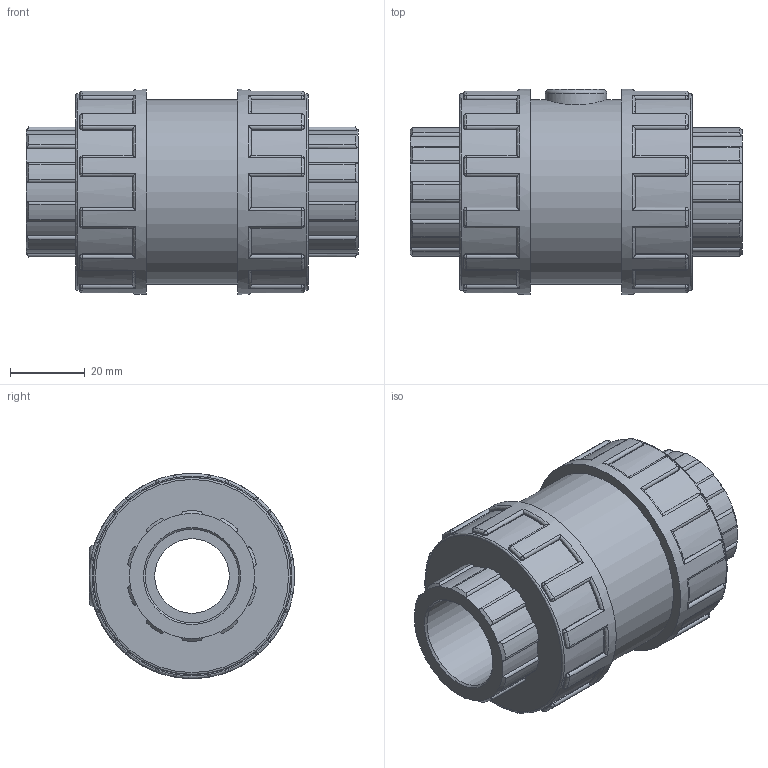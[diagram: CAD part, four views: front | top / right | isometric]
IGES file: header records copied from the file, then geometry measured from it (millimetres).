
Global section: file name: 116400025.ipt; native system: Autodesk Inventor 2015; preprocessor: unknown; author: KIM; date: 20171207.170645; units: millimetre
Bounding box: 89 x 55 x 55 mm (x, y, z)
Volume: 123951.3 mm3; surface area: 24942.9 mm2
Topology: 1 solids, 1 shells, 411 faces, 1033 edges, 630 vertices
Faces by surface type: cylinder 182, plane 105, revolution 56, sphere 48, cone 20
Full cylindrical faces by diameter (mm): 16.5 x1, 49.5 x1, 52.8 x2, 55 x2
